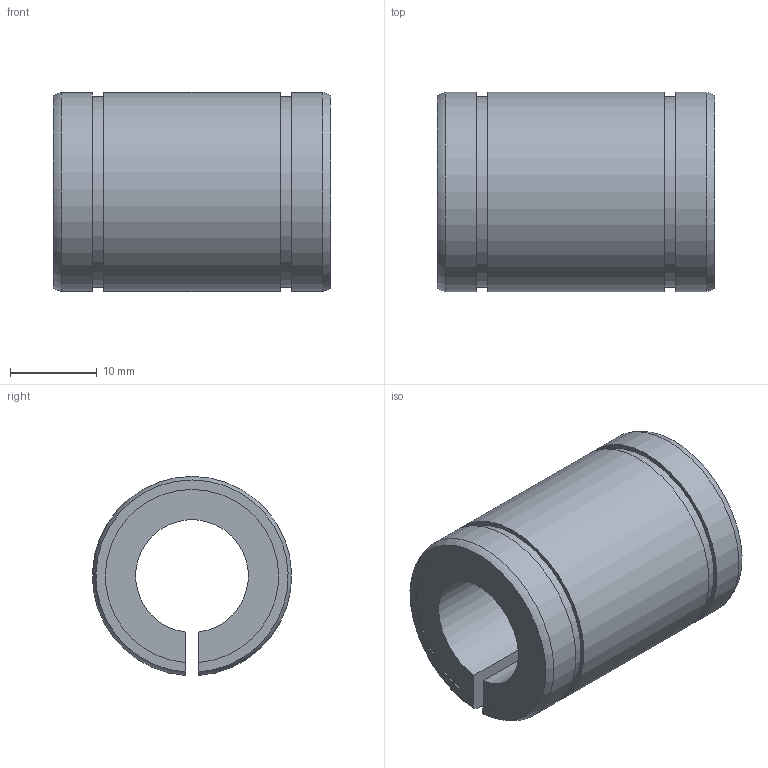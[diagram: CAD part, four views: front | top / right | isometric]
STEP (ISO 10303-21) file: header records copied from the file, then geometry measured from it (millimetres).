
FILE_DESCRIPTION((''),'2;1');
FILE_NAME('D:\製品 (図面)\カタログ用3D\リニアベアリング関連\STEP形式\L-ADJ\L13-ADJ.stp','2010-06-02T17:36:06',('Tsuchiya'),(''),'Autodesk Inventor 10','Autodesk Inventor 10','');
FILE_SCHEMA(('AUTOMOTIVE_DESIGN { 1 0 10303 214 1 1 1 1 }'));
Length unit declared in the file: millimetre
Products named in the file (1): L13-ADJ
Bounding box: 32 x 22.99 x 22.98 mm (x, y, z)
Volume: 8659.7 mm3; surface area: 4478.6 mm2
Topology: 1 solids, 1 shells, 20 faces, 54 edges, 36 vertices
Faces by surface type: plane 10, cylinder 8, torus 2
Entity records: 687 total; most frequent: CARTESIAN_POINT 147, DIRECTION 110, ORIENTED_EDGE 108, EDGE_CURVE 54, AXIS2_PLACEMENT_3D 39, VERTEX_POINT 36, VECTOR 32, LINE 32
